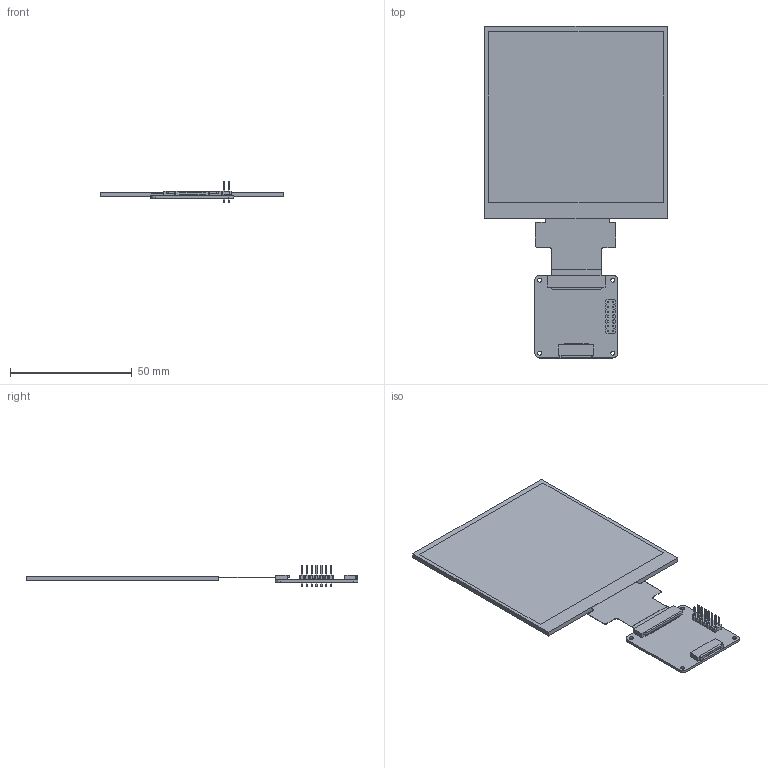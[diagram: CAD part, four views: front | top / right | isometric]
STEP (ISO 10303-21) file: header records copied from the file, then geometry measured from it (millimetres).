
FILE_DESCRIPTION((''),'2;1');
FILE_NAME('TS040WVS02NP-B1617A-V00-241209','2024-12-09T17:20:13',('Shaozi'),(''),'CREO PARAMETRIC BY PTC INC, 2024063','CREO PARAMETRIC BY PTC INC, 2024063','');
FILE_SCHEMA(('AUTOMOTIVE_DESIGN { 1 0 10303 214 1 1 1 1 }'));
Length unit declared in the file: millimetre
Products named in the file (1): TS040WVS02NP-B1617A-V00-241209
Bounding box: 74.83 x 136.35 x 8.8 mm (x, y, z)
Surface area: 17149.3 mm2 (no closed solid volume)
Topology: 0 solids, 6 shells, 337 faces, 973 edges, 654 vertices
Faces by surface type: plane 317, cylinder 20
Entity records: 12922 total; most frequent: CARTESIAN_POINT 1964, ORIENTED_EDGE 1828, DIRECTION 1691, EDGE_CURVE 973, VECTOR 929, LINE 929, VERTEX_POINT 654, AXIS2_PLACEMENT_3D 381
